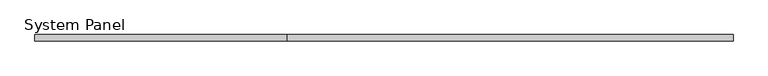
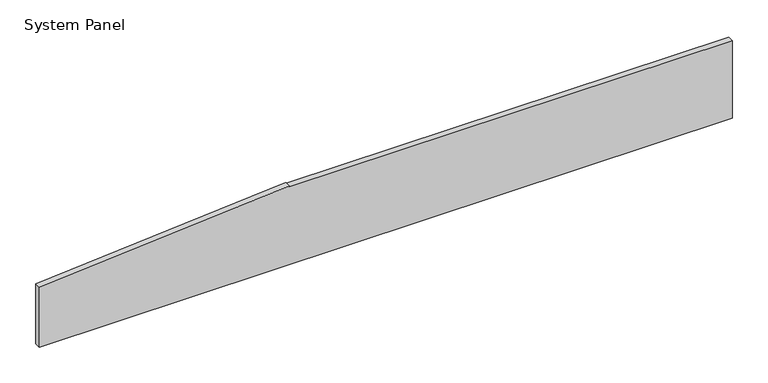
"""IFC4 building model written with IfcOpenShell, lengths in millimetres: plate geometry, System Panel : VACÍO."""

from ifc_helpers import new_model, si_unit, frame, origin, place, context, project, spatial, polyline, outline, extrude, source, transform, mapped, element, save


def system_panel_28e329e3(model_context):
    return source(origin(), model_context, "Body", "SweptSolid", [
        extrude(outline(polyline([(0.0, -557.6350437), (0.0, 557.6350437), (132.033564, 557.6350437), (132.033564, -155.9376267), (134.0529965, -155.4551195), (101.6054599, -557.6350437), (0.0, -557.6350437)])), frame((0.0, -5.0, 0.0), z_axis=(0.0, 1.0, 0.0), x_axis=(0.0, 0.0, 1.0)), (0.0, 0.0, 1.0), 10.0),
    ])


if __name__ == "__main__":
    model = new_model("IFC4")
    model_context = context("Model", 3, world=origin())
    ifc_project = project(units=[si_unit("LENGTHUNIT", "METRE", prefix="MILLI")], contexts=[model_context])
    site = spatial("IfcSite", under=ifc_project)
    building = spatial("IfcBuilding", under=site)
    placement = place(None, origin())
    system_panel_shape = system_panel_28e329e3(model_context)
    element("IfcPlate", 1, ObjectType="System Panel : VACÍO", at=placement, inside=building, context=model_context, shape_type="MappedRepresentation", body=[
        mapped(system_panel_shape, transform((0.0, 0.0, 0.0), x_axis=(1.0, 0.0, 0.0), y_axis=(0.0, 1.0, 0.0), z_axis=(0.0, 0.0, 1.0))),
    ])
    save(model, "model.ifc")
